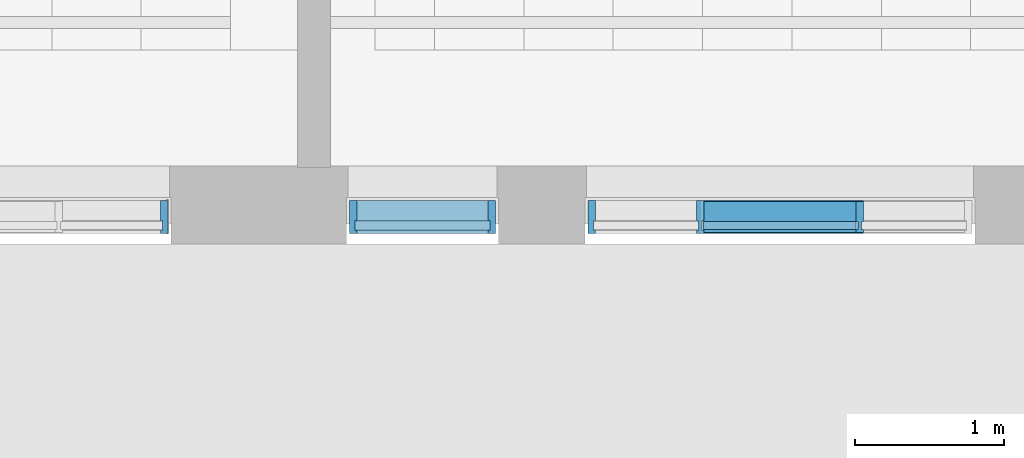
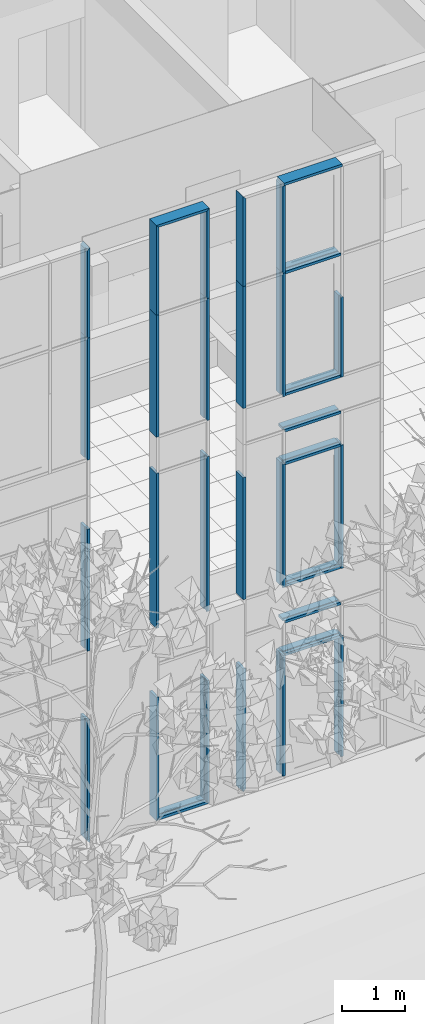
# One storey, part 22 of 246: 33 members, 3 elements without a shape of their own.
"""IFC2X3 building model written with IfcOpenShell, lengths in millimetres."""

from ifc_helpers import new_model, entity, si_unit, converted_unit, derived_unit, money_unit, direction, frame, origin_with_axes, place, context, subcontext, project, spatial, faceted_brep, source, transform, mapped, material, type_object, element, aggregate, save


model = new_model("IFC2X3")

# Units and contexts
model_context = context("Model", 3, precision=0.01, world=origin_with_axes(), true_north=direction((0.0, 1.0)))
body_context = subcontext(model_context, "Body", "Model", "MODEL_VIEW")
ifc_project = project(units=[si_unit("LENGTHUNIT", "METRE", prefix="MILLI"), si_unit("AREAUNIT", "SQUARE_METRE"), si_unit("VOLUMEUNIT", "CUBIC_METRE"), converted_unit("PLANEANGLEUNIT", "DEGREE", entity("IfcPlaneAngleMeasure", 0.0174532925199), si_unit("PLANEANGLEUNIT", "RADIAN"), dimensions=[0, 0, 0, 0, 0, 0, 0]), si_unit("SOLIDANGLEUNIT", "STERADIAN"), money_unit("EUR"), converted_unit("TIMEUNIT", "Year", entity("IfcTimeMeasure", 31556926.0), si_unit("TIMEUNIT", "SECOND"), dimensions=[0, 0, 1, 0, 0, 0, 0]), si_unit("MASSUNIT", "GRAM", prefix="KILO"), si_unit("THERMODYNAMICTEMPERATUREUNIT", "DEGREE_CELSIUS"), si_unit("LUMINOUSINTENSITYUNIT", "LUMEN"), si_unit("ENERGYUNIT", "JOULE", prefix="MEGA"), derived_unit("THERMALCONDUCTANCEUNIT", [(si_unit("POWERUNIT", "WATT"), 1), (si_unit("LENGTHUNIT", "METRE"), -1), (si_unit("THERMODYNAMICTEMPERATUREUNIT", "KELVIN"), -1)]), derived_unit("SPECIFICHEATCAPACITYUNIT", [(si_unit("ENERGYUNIT", "JOULE"), 1), (si_unit("MASSUNIT", "GRAM", prefix="KILO"), -1), (si_unit("THERMODYNAMICTEMPERATUREUNIT", "KELVIN"), -1)]), derived_unit("MASSDENSITYUNIT", [(si_unit("MASSUNIT", "GRAM", prefix="KILO"), 1), (si_unit("VOLUMEUNIT", "CUBIC_METRE"), -1)])], contexts=[model_context])

# Site, building, storey
site_placement = place(None, origin_with_axes())
site = spatial("IfcSite", under=ifc_project, at=site_placement, Name="L.Koidula tn 11b", CompositionType="ELEMENT")
building_placement = place(site_placement, origin_with_axes())
building = spatial("IfcBuilding", under=site, at=building_placement, Name="Rakvere Riigigümnaasium", CompositionType="ELEMENT")
storey_placement = place(building_placement, origin_with_axes())
storey = spatial("IfcBuildingStorey", under=building, at=storey_placement, Name="1.korrus 0,00", CompositionType="ELEMENT", Elevation=0.0)

# Curtain wall, member
curtain_wall_type = type_object("IfcCurtainWallType", Name="Curtain Wall Type", PredefinedType="NOTDEFINED")
curtain_wall_1_placement = place(storey_placement, frame((61650.0002269, 5111.45334637, -8.09717995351e-06), z_axis=(0.0, 0.0, 1.0), x_axis=(1.0, 0.0, 0.0)))
curtain_wall_1 = element("IfcCurtainWall", 1, at=curtain_wall_1_placement, inside=storey, type_object=curtain_wall_type, Name="KLF-05-4B")
ifc_material = material(Name="Alumiiniumprofiil (RAL 7021)")
member_type_1 = type_object("IfcMemberType", Name="Boundary Frame 50 x 222", PredefinedType="MULLION")
shared_shape_1 = source(origin_with_axes(), body_context, "Body", "Brep", [
    faceted_brep([(37.0, -32.5, 2375.00000025), (37.0, 32.5, 2375.00000025), (50.0, 32.5, 2375.00000025), (50.0, 53.0, 2375.00000025), (0.0, 53.0, 2375.00000025), (0.0, -169.0, 2375.00000025), (50.0, -169.0, 2375.00000025), (50.0, -32.5, 2375.00000025), (37.0, -32.5, -2.4712543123e-07), (37.0, 32.5, -2.4712543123e-07), (50.0, 32.5, -2.47125653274e-07), (50.0, 53.0, -2.47125653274e-07), (0.0, 53.0, -2.47125653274e-07), (0.0, -169.0, -2.47125653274e-07), (50.0, -169.0, -2.47125653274e-07), (50.0, -32.5, -2.47125653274e-07)], [[[0, 1, 2, 3, 4, 5, 6, 7]], [[1, 0, 8, 9]], [[10, 2, 1, 9]], [[2, 10, 11, 3]], [[12, 4, 3, 11]], [[13, 5, 4, 12]], [[14, 6, 5, 13]], [[15, 7, 6, 14]], [[0, 7, 15, 8]], [[8, 15, 14, 13, 12, 11, 10, 9]]]),
])
member_1_placement = place(curtain_wall_1_placement, frame((490.000170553, 0.0, 7465.0), z_axis=(-3.60066379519e-08, 0.0, 1.0), x_axis=(-1.0, 0.0, -3.60066379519e-08)))
member_1 = element("IfcMember", 2, at=member_1_placement, type_object=member_type_1, material=ifc_material, Name="KLF-11", ObjectType="MULLION", context=body_context, shape_type="MappedRepresentation", body=[
    mapped(shared_shape_1, transform((0.0, 0.0, 0.0))),
])

# Curtain wall, members
curtain_wall_2_placement = place(storey_placement, frame((59064.0000846, 5111.45334637, -8.09717250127e-06), z_axis=(0.0, 0.0, 1.0), x_axis=(1.0, 0.0, 0.0)))
curtain_wall_2 = element("IfcCurtainWall", 3, at=curtain_wall_2_placement, inside=storey, type_object=curtain_wall_type, Name="KLF-05-2A")
member_2_placement = place(curtain_wall_2_placement, frame((876.000206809, 0.0, 7465.0), z_axis=(-1.46874329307e-08, 0.0, 1.0), x_axis=(-1.0, 0.0, -1.46874329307e-08)))
member_2 = element("IfcMember", 4, at=member_2_placement, type_object=member_type_1, material=ifc_material, Name="KLF-05-8A-Profiilid", ObjectType="MULLION", context=body_context, shape_type="MappedRepresentation", body=[
    mapped(shared_shape_1, transform((0.0, 0.0, 0.0))),
])
member_3_placement = place(curtain_wall_2_placement, frame((876.000206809, 0.0, 3745.0), z_axis=(0.0, 0.0, 1.0), x_axis=(-1.0, 0.0, 0.0)))
member_3 = element("IfcMember", 5, at=member_3_placement, type_object=member_type_1, material=ifc_material, Name="KLF-05-5A-Profiilid", ObjectType="MULLION", context=body_context, shape_type="MappedRepresentation", body=[
    mapped(shared_shape_1, transform((0.0, 0.0, 0.0))),
])

curtain_wall_3_placement = place(storey_placement, frame((63946.9084811, 5111.45334637, -8.0971711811e-06), z_axis=(0.0, 0.0, 1.0), x_axis=(1.0, 0.0, 0.0)))
curtain_wall_3 = element("IfcCurtainWall", 6, at=curtain_wall_3_placement, inside=storey, type_object=curtain_wall_type, Name="KLF-05-3B")
member_4_placement = place(curtain_wall_3_placement, frame((-1186.90871197, 0.0, 6120.0), z_axis=(0.0, 0.0, -1.0), x_axis=(1.0, 0.0, 0.0)))
member_4 = element("IfcMember", 7, at=member_4_placement, type_object=member_type_1, material=ifc_material, Name="KLF-05-8A-Profiilid", ObjectType="MULLION", context=body_context, shape_type="MappedRepresentation", body=[
    mapped(shared_shape_1, transform((0.0, 0.0, 0.0))),
])
member_5_placement = place(curtain_wall_3_placement, frame((-1186.90888468, 0.0, 9840.0), z_axis=(0.0, 0.0, -1.0), x_axis=(1.0, 0.0, 0.0)))
member_5 = element("IfcMember", 8, at=member_5_placement, type_object=member_type_1, material=ifc_material, Name="KLF-05-5A-Profiilid", ObjectType="MULLION", context=body_context, shape_type="MappedRepresentation", body=[
    mapped(shared_shape_1, transform((0.0, 0.0, 0.0))),
])

# Member
shared_shape_2 = source(origin_with_axes(), body_context, "Body", "Brep", [
    faceted_brep([(-37.0, -32.5, 2375.0), (-50.0, -32.5, 2375.0), (-50.0, -169.0, 2375.0), (0.0, -169.0, 2375.0), (0.0, 53.0, 2375.0), (-50.0, 53.0, 2375.0), (-50.0, 32.5, 2375.0), (-37.0, 32.5, 2375.0), (-37.0, -32.5, 0.0), (-50.0, -32.5, 0.0), (-50.0, -169.0, 0.0), (0.0, -169.0, 0.0), (0.0, 53.0, 0.0), (-50.0, 53.0, 0.0), (-50.0, 32.5, 0.0), (-37.0, 32.5, 0.0)], [[[0, 1, 2, 3, 4, 5, 6, 7]], [[0, 8, 9, 1]], [[9, 10, 2, 1]], [[10, 11, 3, 2]], [[11, 12, 4, 3]], [[12, 13, 5, 4]], [[6, 5, 13, 14]], [[14, 15, 7, 6]], [[7, 15, 8, 0]], [[8, 15, 14, 13, 12, 11, 10, 9]]]),
])
member_6_placement = place(curtain_wall_1_placement, frame((-490.000127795, 0.0, 7465.0), z_axis=(0.0, 0.0, 1.0), x_axis=(-1.0, 0.0, 0.0)))
member_6 = element("IfcMember", 9, at=member_6_placement, type_object=member_type_1, material=ifc_material, Name="KLF-15", ObjectType="MULLION", context=body_context, shape_type="MappedRepresentation", body=[
    mapped(shared_shape_2, transform((0.0, 0.0, 0.0))),
])

shared_shape_3 = source(origin_with_axes(), body_context, "Body", "Brep", [
    faceted_brep([(37.0, -32.5, 1712.99983191), (37.0, 32.5, 1712.99983191), (50.0, 32.5, 1699.99983191), (50.0, 53.0, 1699.99983191), (0.0, 53.0, 1749.99983191), (0.0, -169.0, 1749.99983191), (50.0, -169.0, 1699.99983191), (50.0, -32.5, 1699.99983191), (37.0, -32.5, -2.47125875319e-07), (37.0, 32.5, -2.47125875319e-07), (50.0, 32.5, -2.47125764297e-07), (50.0, 53.0, -2.47125764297e-07), (0.0, 53.0, -2.47125764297e-07), (0.0, -169.0, -2.47125764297e-07), (50.0, -169.0, -2.47125764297e-07), (50.0, -32.5, -2.47125764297e-07)], [[[0, 1, 2, 3, 4, 5, 6, 7]], [[1, 0, 8, 9]], [[10, 2, 1, 9]], [[2, 10, 11, 3]], [[12, 4, 3, 11]], [[13, 5, 4, 12]], [[14, 6, 5, 13]], [[15, 7, 6, 14]], [[0, 7, 15, 8]], [[8, 15, 14, 13, 12, 11, 10, 9]]]),
])
member_7_placement = place(curtain_wall_1_placement, frame((490.000085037, 0.0, 9840.0), z_axis=(3.63216120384e-08, 0.0, 1.0), x_axis=(-1.0, 0.0, 3.63216120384e-08)))
member_7 = element("IfcMember", 10, at=member_7_placement, type_object=member_type_1, material=ifc_material, Name="KLF-12", ObjectType="MULLION", context=body_context, shape_type="MappedRepresentation", body=[
    mapped(shared_shape_3, transform((0.0, 0.0, 0.0))),
])

member_8_placement = place(curtain_wall_2_placement, frame((876.000171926, 0.0, 9840.0), z_axis=(5.61334026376e-08, 0.0, 1.0), x_axis=(-1.0, 0.0, 5.61334026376e-08)))
member_8 = element("IfcMember", 11, at=member_8_placement, type_object=member_type_1, material=ifc_material, Name="KLF-05-9A-Profiilid", ObjectType="MULLION", context=body_context, shape_type="MappedRepresentation", body=[
    mapped(shared_shape_3, transform((0.0, 0.0, 0.0))),
])

member_type_2 = type_object("IfcMemberType", Name="Mullion Frame 50 x 222", PredefinedType="MULLION")
shared_shape_4 = source(origin_with_axes(), body_context, "Body", "Brep", [
    faceted_brep([(-12.0, -32.5, 2375.0), (-25.0, -32.5, 2375.0), (-25.0, -169.0, 2375.0), (25.0, -169.0, 2375.0), (25.0, -32.5, 2375.0), (12.0, -32.5, 2375.0), (12.0, 32.5, 2375.0), (25.0, 32.5, 2375.0), (25.0, 53.0, 2375.0), (-25.0, 53.0, 2375.0), (-25.0, 32.5, 2375.0), (-12.0, 32.5, 2375.0), (-12.0, -32.5, -25.0), (-25.0, -32.5, -25.0), (-25.0, -169.0, -25.0), (25.0, -169.0, -25.0), (25.0, -32.5, -25.0), (12.0, -32.5, -25.0), (12.0, 32.5, -25.0), (25.0, 32.5, -25.0), (25.0, 53.0, -25.0), (-25.0, 53.0, -25.0), (-25.0, 32.5, -25.0), (-12.0, 32.5, -25.0)], [[[0, 1, 2, 3, 4, 5, 6, 7, 8, 9, 10, 11]], [[1, 0, 12, 13]], [[1, 13, 14, 2]], [[3, 2, 14, 15]], [[4, 3, 15, 16]], [[4, 16, 17, 5]], [[5, 17, 18, 6]], [[7, 6, 18, 19]], [[19, 20, 8, 7]], [[9, 8, 20, 21]], [[22, 10, 9, 21]], [[11, 10, 22, 23]], [[0, 11, 23, 12]], [[23, 22, 21, 20, 19, 18, 17, 16, 15, 14, 13, 12]]]),
])
member_9_placement = place(curtain_wall_3_placement, frame((-431.908628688, 0.0, 3745.0), z_axis=(0.0, 0.0, 1.0), x_axis=(-1.0, 0.0, 0.0)))
member_9 = element("IfcMember", 12, at=member_9_placement, type_object=member_type_2, material=ifc_material, Name="KLF-05-9A-Profiilid", ObjectType="MULLION", context=body_context, shape_type="MappedRepresentation", body=[
    mapped(shared_shape_4, transform((0.0, 0.0, 0.0))),
])

member_10_placement = place(curtain_wall_3_placement, frame((-431.908628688, 0.0, 7465.0), z_axis=(0.0, 0.0, 1.0), x_axis=(-1.0, 0.0, 0.0)))
member_10 = element("IfcMember", 13, at=member_10_placement, type_object=member_type_2, material=ifc_material, Name="KLF-05-6A-Profiilid", ObjectType="MULLION", context=body_context, shape_type="MappedRepresentation", body=[
    mapped(shared_shape_4, transform((0.0, 0.0, 0.0))),
])

shared_shape_5 = source(origin_with_axes(), body_context, "Body", "Brep", [
    faceted_brep([(37.0, -32.5, 2400.0), (37.0, 32.5, 2400.0), (50.0, 32.5, 2400.0), (50.0, 53.0, 2400.0), (0.0, 53.0, 2400.0), (0.0, -169.0, 2400.0), (50.0, -169.0, 2400.0), (50.0, -32.5, 2400.0), (37.0, -32.5, 37.0), (37.0, 32.5, 37.0), (50.0, 32.5, 50.0), (50.0, 53.0, 50.0), (0.0, 53.0, 0.0), (0.0, -169.0, 0.0), (50.0, -169.0, 50.0), (50.0, -32.5, 50.0)], [[[0, 1, 2, 3, 4, 5, 6, 7]], [[1, 0, 8, 9]], [[10, 2, 1, 9]], [[2, 10, 11, 3]], [[4, 3, 11, 12]], [[5, 4, 12, 13]], [[6, 5, 13, 14]], [[15, 7, 6, 14]], [[0, 7, 15, 8]], [[8, 15, 14, 13, 12, 11, 10, 9]]]),
])
member_11_placement = place(curtain_wall_1_placement, frame((490.000170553, 0.0, 0.0), z_axis=(0.0, 0.0, 1.0), x_axis=(-1.0, 0.0, 0.0)))
member_11 = element("IfcMember", 14, at=member_11_placement, type_object=member_type_1, material=ifc_material, Name="KLF-06", ObjectType="MULLION", context=body_context, shape_type="MappedRepresentation", body=[
    mapped(shared_shape_5, transform((0.0, 0.0, 0.0))),
])

member_12_placement = place(curtain_wall_2_placement, frame((876.000206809, 0.0, 0.0), z_axis=(0.0, 0.0, 1.0), x_axis=(-1.0, 0.0, 0.0)))
member_12 = element("IfcMember", 15, at=member_12_placement, type_object=member_type_1, material=ifc_material, Name="KLF-05-2A-Profiilid", ObjectType="MULLION", context=body_context, shape_type="MappedRepresentation", body=[
    mapped(shared_shape_5, transform((0.0, 0.0, 0.0))),
])

aggregate(curtain_wall_2, [member_2, member_3, member_12, member_8])

member_type_3 = type_object("IfcMemberType", Name="50 x 208", PredefinedType="MULLION")
shared_shape_6 = source(origin_with_axes(), body_context, "Body", "Brep", [
    faceted_brep([(-12.0, -27.0, 1025.45673266), (-25.0, -27.0, 1025.45673266), (-25.0, -160.0, 1025.45673266), (25.0, -160.0, 1025.45673266), (25.0, -27.0, 1025.45673266), (12.0, -27.0, 1025.45673266), (12.0, 27.0, 1025.45673266), (25.0, 27.0, 1025.45673266), (25.0, 48.0, 1025.45673266), (-25.0, 48.0, 1025.45673266), (-25.0, 27.0, 1025.45673266), (-12.0, 27.0, 1025.45673266), (-12.0, -27.0, 0.0), (-25.0, -27.0, 0.0), (-25.0, -160.0, 0.0), (25.0, -160.0, 0.0), (25.0, -27.0, 0.0), (12.0, -27.0, 0.0), (12.0, 27.0, 0.0), (25.0, 27.0, 0.0), (25.0, 48.0, 0.0), (-25.0, 48.0, 0.0), (-25.0, 27.0, 0.0), (-12.0, 27.0, 0.0)], [[[0, 1, 2, 3, 4, 5, 6, 7, 8, 9, 10, 11]], [[1, 0, 12, 13]], [[1, 13, 14, 2]], [[3, 2, 14, 15]], [[4, 3, 15, 16]], [[4, 16, 17, 5]], [[5, 17, 18, 6]], [[7, 6, 18, 19]], [[19, 20, 8, 7]], [[9, 8, 20, 21]], [[22, 10, 9, 21]], [[11, 10, 22, 23]], [[0, 11, 23, 12]], [[23, 22, 21, 20, 19, 18, 17, 16, 15, 14, 13, 12]]]),
])
member_13_placement = place(curtain_wall_3_placement, frame((-412.365361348, 0.0, 2400.0), z_axis=(1.0, 0.0, 0.0), x_axis=(0.0, 0.0, 1.0)))
member_13 = element("IfcMember", 16, at=member_13_placement, type_object=member_type_3, material=ifc_material, Name="KLF-40", ObjectType="MULLION", context=body_context, shape_type="MappedRepresentation", body=[
    mapped(shared_shape_6, transform((0.0, 0.0, 0.0))),
])

member_14_placement = place(curtain_wall_3_placement, frame((-412.365361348, 0.0, 3040.0), z_axis=(1.0, 0.0, 0.0), x_axis=(0.0, 0.0, 1.0)))
member_14 = element("IfcMember", 17, at=member_14_placement, type_object=member_type_3, material=ifc_material, Name="KLF-82", ObjectType="MULLION", context=body_context, shape_type="MappedRepresentation", body=[
    mapped(shared_shape_6, transform((0.0, 0.0, 0.0))),
])

member_15_placement = place(curtain_wall_3_placement, frame((-412.365361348, 0.0, 3745.0), z_axis=(1.0, 0.0, 0.0), x_axis=(0.0, 0.0, 1.0)))
member_15 = element("IfcMember", 18, at=member_15_placement, type_object=member_type_3, material=ifc_material, Name="KLF-84", ObjectType="MULLION", context=body_context, shape_type="MappedRepresentation", body=[
    mapped(shared_shape_6, transform((0.0, 0.0, 0.0))),
])

member_16_placement = place(curtain_wall_3_placement, frame((-412.365361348, 0.0, 6120.0), z_axis=(1.0, 0.0, 0.0), x_axis=(0.0, 0.0, 1.0)))
member_16 = element("IfcMember", 19, at=member_16_placement, type_object=member_type_3, material=ifc_material, Name="KLF-15", ObjectType="MULLION", context=body_context, shape_type="MappedRepresentation", body=[
    mapped(shared_shape_6, transform((0.0, 0.0, 0.0))),
])

member_17_placement = place(curtain_wall_3_placement, frame((-412.365361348, 0.0, 6760.0), z_axis=(1.0, 0.0, 0.0), x_axis=(0.0, 0.0, 1.0)))
member_17 = element("IfcMember", 20, at=member_17_placement, type_object=member_type_3, material=ifc_material, Name="KLF-17", ObjectType="MULLION", context=body_context, shape_type="MappedRepresentation", body=[
    mapped(shared_shape_6, transform((0.0, 0.0, 0.0))),
])

member_18_placement = place(curtain_wall_3_placement, frame((-412.365361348, 0.0, 7465.0), z_axis=(1.0, 0.0, 0.0), x_axis=(0.0, 0.0, 1.0)))
member_18 = element("IfcMember", 21, at=member_18_placement, type_object=member_type_3, material=ifc_material, Name="KLF-50", ObjectType="MULLION", context=body_context, shape_type="MappedRepresentation", body=[
    mapped(shared_shape_6, transform((0.0, 0.0, 0.0))),
])

shared_shape_7 = source(origin_with_axes(), body_context, "Body", "Brep", [
    faceted_brep([(-12.0, -32.5, 1699.99983191), (-25.0, -32.5, 1699.99983191), (-25.0, -169.0, 1699.99983191), (25.0, -169.0, 1699.99983191), (25.0, -32.5, 1699.99983191), (12.0, -32.5, 1699.99983191), (12.0, 32.5, 1699.99983191), (25.0, 32.5, 1699.99983191), (25.0, 53.0, 1699.99983191), (-25.0, 53.0, 1699.99983191), (-25.0, 32.5, 1699.99983191), (-12.0, 32.5, 1699.99983191), (-12.0, -32.5, 0.0), (-25.0, -32.5, 0.0), (-25.0, -169.0, 0.0), (25.0, -169.0, 0.0), (25.0, -32.5, 0.0), (12.0, -32.5, 0.0), (12.0, 32.5, 0.0), (25.0, 32.5, 0.0), (25.0, 53.0, 0.0), (-25.0, 53.0, 0.0), (-25.0, 32.5, 0.0), (-12.0, 32.5, 0.0)], [[[0, 1, 2, 3, 4, 5, 6, 7, 8, 9, 10, 11]], [[1, 0, 12, 13]], [[1, 13, 14, 2]], [[3, 2, 14, 15]], [[4, 3, 15, 16]], [[4, 16, 17, 5]], [[5, 17, 18, 6]], [[7, 6, 18, 19]], [[19, 20, 8, 7]], [[9, 8, 20, 21]], [[22, 10, 9, 21]], [[11, 10, 22, 23]], [[0, 11, 23, 12]], [[23, 22, 21, 20, 19, 18, 17, 16, 15, 14, 13, 12]]]),
])
member_19_placement = place(curtain_wall_3_placement, frame((-431.908628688, 0.0, 9840.0), z_axis=(0.0, 0.0, 1.0), x_axis=(-1.0, 0.0, 0.0)))
member_19 = element("IfcMember", 22, at=member_19_placement, type_object=member_type_2, material=ifc_material, Name="KLF-05-5A-Profiilid", ObjectType="MULLION", context=body_context, shape_type="MappedRepresentation", body=[
    mapped(shared_shape_7, transform((0.0, 0.0, 0.0))),
])

shared_shape_8 = source(origin_with_axes(), body_context, "Body", "Brep", [
    faceted_brep([(-37.0, -32.5, 2400.0), (-50.0, -32.5, 2400.0), (-50.0, -169.0, 2400.0), (0.0, -169.0, 2400.0), (0.0, 53.0, 2400.0), (-50.0, 53.0, 2400.0), (-50.0, 32.5, 2400.0), (-37.0, 32.5, 2400.0), (-37.0, -32.5, 37.0), (-50.0, -32.5, 50.0), (-50.0, -169.0, 50.0), (0.0, -169.0, 0.0), (0.0, 53.0, 0.0), (-50.0, 53.0, 50.0), (-50.0, 32.5, 50.0), (-37.0, 32.5, 37.0)], [[[0, 1, 2, 3, 4, 5, 6, 7]], [[0, 8, 9, 1]], [[9, 10, 2, 1]], [[2, 10, 11, 3]], [[3, 11, 12, 4]], [[4, 12, 13, 5]], [[6, 5, 13, 14]], [[14, 15, 7, 6]], [[7, 15, 8, 0]], [[8, 15, 14, 13, 12, 11, 10, 9]]]),
])
member_20_placement = place(curtain_wall_1_placement, frame((-490.000127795, 0.0, 0.0), z_axis=(0.0, 0.0, 1.0), x_axis=(-1.0, 0.0, 0.0)))
member_20 = element("IfcMember", 23, at=member_20_placement, type_object=member_type_1, material=ifc_material, Name="KLF-20", ObjectType="MULLION", context=body_context, shape_type="MappedRepresentation", body=[
    mapped(shared_shape_8, transform((0.0, 0.0, 0.0))),
])

shared_shape_9 = source(origin_with_axes(), body_context, "Body", "Brep", [
    faceted_brep([(-37.0, -32.5, 1712.99983191), (-50.0, -32.5, 1699.99983191), (-50.0, -169.0, 1699.99983191), (0.0, -169.0, 1749.99983191), (0.0, 53.0, 1749.99983191), (-50.0, 53.0, 1699.99983191), (-50.0, 32.5, 1699.99983191), (-37.0, 32.5, 1712.99983191), (-37.0, -32.5, 0.0), (-50.0, -32.5, 0.0), (-50.0, -169.0, 0.0), (0.0, -169.0, 0.0), (0.0, 53.0, 0.0), (-50.0, 53.0, 0.0), (-50.0, 32.5, 0.0), (-37.0, 32.5, 0.0)], [[[0, 1, 2, 3, 4, 5, 6, 7]], [[0, 8, 9, 1]], [[9, 10, 2, 1]], [[10, 11, 3, 2]], [[11, 12, 4, 3]], [[12, 13, 5, 4]], [[6, 5, 13, 14]], [[14, 15, 7, 6]], [[7, 15, 8, 0]], [[8, 15, 14, 13, 12, 11, 10, 9]]]),
])
member_21_placement = place(curtain_wall_1_placement, frame((-490.000127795, 0.0, 9840.0), z_axis=(0.0, 0.0, 1.0), x_axis=(-1.0, 0.0, 0.0)))
member_21 = element("IfcMember", 24, at=member_21_placement, type_object=member_type_1, material=ifc_material, Name="KLF-14", ObjectType="MULLION", context=body_context, shape_type="MappedRepresentation", body=[
    mapped(shared_shape_9, transform((0.0, 0.0, 0.0))),
])

shared_shape_10 = source(origin_with_axes(), body_context, "Body", "Brep", [
    faceted_brep([(37.0, -32.5, 3015.0), (37.0, 32.5, 3015.0), (50.0, 32.5, 3015.0), (50.0, 53.0, 3015.0), (0.0, 53.0, 3015.0), (0.0, -169.0, 3015.0), (50.0, -169.0, 3015.0), (50.0, -32.5, 3015.0), (37.0, -32.5, 0.0), (37.0, 32.5, 0.0), (50.0, 32.5, 0.0), (50.0, 53.0, 0.0), (0.0, 53.0, 0.0), (0.0, -169.0, 0.0), (50.0, -169.0, 0.0), (50.0, -32.5, 0.0)], [[[0, 1, 2, 3, 4, 5, 6, 7]], [[1, 0, 8, 9]], [[10, 2, 1, 9]], [[2, 10, 11, 3]], [[12, 4, 3, 11]], [[13, 5, 4, 12]], [[14, 6, 5, 13]], [[15, 7, 6, 14]], [[0, 7, 15, 8]], [[8, 15, 14, 13, 12, 11, 10, 9]]]),
])
member_22_placement = place(curtain_wall_1_placement, frame((490.000170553, 0.0, 3745.0), z_axis=(0.0, 0.0, 1.0), x_axis=(-1.0, 0.0, 0.0)))
member_22 = element("IfcMember", 25, at=member_22_placement, type_object=member_type_1, material=ifc_material, Name="KLF-09", ObjectType="MULLION", context=body_context, shape_type="MappedRepresentation", body=[
    mapped(shared_shape_10, transform((0.0, 0.0, 0.0))),
])

shared_shape_11 = source(origin_with_axes(), body_context, "Body", "Brep", [
    faceted_brep([(-12.0, -27.0, 2400.00026018), (-25.0, -27.0, 2400.00026018), (-25.0, -160.0, 2400.00026018), (25.0, -160.0, 2400.00026018), (25.0, -27.0, 2400.00026018), (12.0, -27.0, 2400.00026018), (12.0, 27.0, 2400.00026018), (25.0, 27.0, 2400.00026018), (25.0, 48.0, 2400.00026018), (-25.0, 48.0, 2400.00026018), (-25.0, 27.0, 2400.00026018), (-12.0, 27.0, 2400.00026018), (-12.0, -27.0, 50.0), (-25.0, -27.0, 50.0), (-25.0, -160.0, 50.0), (25.0, -160.0, 50.0), (25.0, -27.0, 50.0), (12.0, -27.0, 50.0), (12.0, 27.0, 50.0), (25.0, 27.0, 50.0), (25.0, 48.0, 50.0), (-25.0, 48.0, 50.0), (-25.0, 27.0, 50.0), (-12.0, 27.0, 50.0)], [[[0, 1, 2, 3, 4, 5, 6, 7, 8, 9, 10, 11]], [[1, 0, 12, 13]], [[1, 13, 14, 2]], [[2, 14, 15, 3]], [[4, 3, 15, 16]], [[4, 16, 17, 5]], [[5, 17, 18, 6]], [[7, 6, 18, 19]], [[19, 20, 8, 7]], [[8, 20, 21, 9]], [[22, 10, 9, 21]], [[11, 10, 22, 23]], [[0, 11, 23, 12]], [[23, 22, 21, 20, 19, 18, 17, 16, 15, 14, 13, 12]]]),
])
member_23_placement = place(curtain_wall_3_placement, frame((638.091371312, 0.0, 0.0), z_axis=(0.0, 0.0, 1.0), x_axis=(-1.0, 0.0, 0.0)))
member_23 = element("IfcMember", 26, at=member_23_placement, type_object=member_type_3, material=ifc_material, Name="KLF-24", ObjectType="MULLION", context=body_context, shape_type="MappedRepresentation", body=[
    mapped(shared_shape_11, transform((0.0, 0.0, 0.0))),
])

shared_shape_12 = source(origin_with_axes(), body_context, "Body", "Brep", [
    faceted_brep([(-12.0, -32.5, 2400.0), (-25.0, -32.5, 2400.0), (-25.0, -169.0, 2400.0), (25.0, -169.0, 2400.0), (25.0, -32.5, 2400.0), (12.0, -32.5, 2400.0), (12.0, 32.5, 2400.0), (25.0, 32.5, 2400.0), (25.0, 53.0, 2400.0), (-25.0, 53.0, 2400.0), (-25.0, 32.5, 2400.0), (-12.0, 32.5, 2400.0), (-12.0, -32.5, 50.0), (-25.0, -32.5, 50.0), (-25.0, -169.0, 50.0), (25.0, -169.0, 50.0), (25.0, -32.5, 50.0), (12.0, -32.5, 50.0), (12.0, 32.5, 50.0), (25.0, 32.5, 50.0), (25.0, 53.0, 50.0), (-25.0, 53.0, 50.0), (-25.0, 32.5, 50.0), (-12.0, 32.5, 50.0)], [[[0, 1, 2, 3, 4, 5, 6, 7, 8, 9, 10, 11]], [[1, 0, 12, 13]], [[1, 13, 14, 2]], [[2, 14, 15, 3]], [[4, 3, 15, 16]], [[4, 16, 17, 5]], [[5, 17, 18, 6]], [[7, 6, 18, 19]], [[19, 20, 8, 7]], [[8, 20, 21, 9]], [[22, 10, 9, 21]], [[11, 10, 22, 23]], [[0, 11, 23, 12]], [[23, 22, 21, 20, 19, 18, 17, 16, 15, 14, 13, 12]]]),
])
member_24_placement = place(curtain_wall_3_placement, frame((-431.908628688, 0.0, 0.0), z_axis=(0.0, 0.0, 1.0), x_axis=(-1.0, 0.0, 0.0)))
member_24 = element("IfcMember", 27, at=member_24_placement, type_object=member_type_2, material=ifc_material, Name="KLF-05-2A-Profiilid", ObjectType="MULLION", context=body_context, shape_type="MappedRepresentation", body=[
    mapped(shared_shape_12, transform((0.0, 0.0, 0.0))),
])

shared_shape_13 = source(origin_with_axes(), body_context, "Body", "Brep", [
    faceted_brep([(-12.0, -27.0, 1535.0), (-25.0, -27.0, 1535.0), (-25.0, -160.0, 1535.0), (25.0, -160.0, 1535.0), (25.0, -27.0, 1535.0), (12.0, -27.0, 1535.0), (12.0, 27.0, 1535.0), (25.0, 27.0, 1535.0), (25.0, 48.0, 1535.0), (-25.0, 48.0, 1535.0), (-25.0, 27.0, 1535.0), (-12.0, 27.0, 1535.0), (-12.0, -27.0, -25.0), (-25.0, -27.0, -25.0), (-25.0, -160.0, -25.0), (25.0, -160.0, -25.0), (25.0, -27.0, -25.0), (12.0, -27.0, -25.0), (12.0, 27.0, -25.0), (25.0, 27.0, -25.0), (25.0, 48.0, -25.0), (-25.0, 48.0, -25.0), (-25.0, 27.0, -25.0), (-12.0, 27.0, -25.0)], [[[0, 1, 2, 3, 4, 5, 6, 7, 8, 9, 10, 11]], [[1, 0, 12, 13]], [[1, 13, 14, 2]], [[3, 2, 14, 15]], [[4, 3, 15, 16]], [[4, 16, 17, 5]], [[5, 17, 18, 6]], [[7, 6, 18, 19]], [[19, 20, 8, 7]], [[9, 8, 20, 21]], [[22, 10, 9, 21]], [[11, 10, 22, 23]], [[0, 11, 23, 12]], [[23, 22, 21, 20, 19, 18, 17, 16, 15, 14, 13, 12]]]),
])
member_25_placement = place(curtain_wall_3_placement, frame((638.091371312, 0.0, 7465.0), z_axis=(0.0, 0.0, 1.0), x_axis=(-1.0, 0.0, 0.0)))
member_25 = element("IfcMember", 28, at=member_25_placement, type_object=member_type_3, material=ifc_material, Name="KLF-25", ObjectType="MULLION", context=body_context, shape_type="MappedRepresentation", body=[
    mapped(shared_shape_13, transform((0.0, 0.0, 0.0))),
])

member_type_4 = type_object("IfcMemberType", Name="50 x 222", PredefinedType="MULLION")
shared_shape_14 = source(origin_with_axes(), body_context, "Body", "Brep", [
    faceted_brep([(-12.0, -27.0, 2375.0), (-25.0, -27.0, 2375.0), (-25.0, -169.0, 2375.0), (25.0, -169.0, 2375.0), (25.0, -27.0, 2375.0), (12.0, -27.0, 2375.0), (12.0, 27.0, 2375.0), (25.0, 27.0, 2375.0), (25.0, 53.0, 2375.0), (-25.0, 53.0, 2375.0), (-25.0, 27.0, 2375.0), (-12.0, 27.0, 2375.0), (-12.0, -27.0, -25.0), (-25.0, -27.0, -25.0), (-25.0, -169.0, -25.0), (25.0, -169.0, -25.0), (25.0, -27.0, -25.0), (12.0, -27.0, -25.0), (12.0, 27.0, -25.0), (25.0, 27.0, -25.0), (25.0, 53.0, -25.0), (-25.0, 53.0, -25.0), (-25.0, 27.0, -25.0), (-12.0, 27.0, -25.0)], [[[0, 1, 2, 3, 4, 5, 6, 7, 8, 9, 10, 11]], [[1, 0, 12, 13]], [[1, 13, 14, 2]], [[3, 2, 14, 15]], [[4, 3, 15, 16]], [[4, 16, 17, 5]], [[5, 17, 18, 6]], [[7, 6, 18, 19]], [[19, 20, 8, 7]], [[9, 8, 20, 21]], [[22, 10, 9, 21]], [[11, 10, 22, 23]], [[0, 11, 23, 12]], [[23, 22, 21, 20, 19, 18, 17, 16, 15, 14, 13, 12]]]),
])
member_26_placement = place(curtain_wall_3_placement, frame((638.091371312, 0.0, 3745.0), z_axis=(0.0, 0.0, 1.0), x_axis=(-1.0, 0.0, 0.0)))
member_26 = element("IfcMember", 29, at=member_26_placement, type_object=member_type_4, material=ifc_material, Name="KLF-67", ObjectType="MULLION", context=body_context, shape_type="MappedRepresentation", body=[
    mapped(shared_shape_14, transform((0.0, 0.0, 0.0))),
])

shared_shape_15 = source(origin_with_axes(), body_context, "Body", "Brep", [
    faceted_brep([(37.0, -32.5, 2363.0), (37.0, 32.5, 2363.0), (50.0, 32.5, 2350.0), (50.0, 53.0, 2350.0), (0.0, 53.0, 2400.0), (0.0, -169.0, 2400.0), (50.0, -169.0, 2350.0), (50.0, -32.5, 2350.0), (37.0, -32.5, 0.0), (37.0, 32.5, 0.0), (50.0, 32.5, 0.0), (50.0, 53.0, 0.0), (0.0, 53.0, 0.0), (0.0, -169.0, 0.0), (50.0, -169.0, 0.0), (50.0, -32.5, 0.0)], [[[0, 1, 2, 3, 4, 5, 6, 7]], [[1, 0, 8, 9]], [[10, 2, 1, 9]], [[2, 10, 11, 3]], [[12, 4, 3, 11]], [[13, 5, 4, 12]], [[14, 6, 5, 13]], [[15, 7, 6, 14]], [[0, 7, 15, 8]], [[8, 15, 14, 13, 12, 11, 10, 9]]]),
])
member_27_placement = place(curtain_wall_3_placement, frame((-1186.90871197, 0.0, 2400.0), z_axis=(0.0, 0.0, -1.0), x_axis=(1.0, 0.0, 0.0)))
member_27 = element("IfcMember", 30, at=member_27_placement, type_object=member_type_1, material=ifc_material, Name="KLF-05-9A-Profiilid", ObjectType="MULLION", context=body_context, shape_type="MappedRepresentation", body=[
    mapped(shared_shape_15, transform((0.0, 0.0, 0.0))),
])

shared_shape_16 = source(origin_with_axes(), body_context, "Body", "Brep", [
    faceted_brep([(37.0, -32.5, 1749.99983313), (37.0, 32.5, 1749.99983313), (50.0, 32.5, 1749.99983313), (50.0, 53.0, 1749.99983313), (0.0, 53.0, 1749.99983313), (0.0, -169.0, 1749.99983313), (50.0, -169.0, 1749.99983313), (50.0, -32.5, 1749.99983313), (37.0, -32.5, 37.0000017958), (37.0, 32.5, 37.0000017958), (50.0, 32.5, 50.0000024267), (50.0, 53.0, 50.0000024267), (0.0, 53.0, 0.0), (0.0, -169.0, 0.0), (50.0, -169.0, 50.0000024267), (50.0, -32.5, 50.0000024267)], [[[0, 1, 2, 3, 4, 5, 6, 7]], [[1, 0, 8, 9]], [[10, 2, 1, 9]], [[2, 10, 11, 3]], [[4, 3, 11, 12]], [[5, 4, 12, 13]], [[6, 5, 13, 14]], [[15, 7, 6, 14]], [[0, 7, 15, 8]], [[8, 15, 14, 13, 12, 11, 10, 9]]]),
])
member_28_placement = place(curtain_wall_3_placement, frame((-1186.90890227, 0.0, 11590.0000411), z_axis=(1.00537490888e-08, 0.0, -1.0), x_axis=(1.0, 0.0, 1.00537490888e-08)))
member_28 = element("IfcMember", 31, at=member_28_placement, type_object=member_type_1, material=ifc_material, Name="KLF-05-4A-Profiilid", ObjectType="MULLION", context=body_context, shape_type="MappedRepresentation", body=[
    mapped(shared_shape_16, transform((0.0, 0.0, 0.0))),
])

shared_shape_17 = source(origin_with_axes(), body_context, "Body", "Brep", [
    faceted_brep([(-37.0, -32.5, 3015.0), (-50.0, -32.5, 3015.0), (-50.0, -169.0, 3015.0), (0.0, -169.0, 3015.0), (0.0, 53.0, 3015.0), (-50.0, 53.0, 3015.0), (-50.0, 32.5, 3015.0), (-37.0, 32.5, 3015.0), (-37.0, -32.5, 0.0), (-50.0, -32.5, 0.0), (-50.0, -169.0, 0.0), (0.0, -169.0, 0.0), (0.0, 53.0, 0.0), (-50.0, 53.0, 0.0), (-50.0, 32.5, 0.0), (-37.0, 32.5, 0.0)], [[[0, 1, 2, 3, 4, 5, 6, 7]], [[0, 8, 9, 1]], [[9, 10, 2, 1]], [[10, 11, 3, 2]], [[11, 12, 4, 3]], [[12, 13, 5, 4]], [[6, 5, 13, 14]], [[14, 15, 7, 6]], [[7, 15, 8, 0]], [[8, 15, 14, 13, 12, 11, 10, 9]]]),
])
member_29_placement = place(curtain_wall_1_placement, frame((-490.000127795, 0.0, 3745.0), z_axis=(0.0, 0.0, 1.0), x_axis=(-1.0, 0.0, 0.0)))
member_29 = element("IfcMember", 32, at=member_29_placement, type_object=member_type_1, material=ifc_material, Name="KLF-17", ObjectType="MULLION", context=body_context, shape_type="MappedRepresentation", body=[
    mapped(shared_shape_17, transform((0.0, 0.0, 0.0))),
])

shared_shape_18 = source(origin_with_axes(), body_context, "Body", "Brep", [
    faceted_brep([(37.0, -32.5, 943.000298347), (37.0, 32.5, 943.000298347), (50.0, 32.5, 930.000298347), (50.0, 53.0, 930.000298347), (0.0, 53.0, 980.000298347), (0.0, -169.0, 980.000298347), (50.0, -169.0, 930.000298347), (50.0, -32.5, 930.000298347), (37.0, -32.5, 37.0), (37.0, 32.5, 37.0), (50.0, 32.5, 50.0), (50.0, 53.0, 50.0), (0.0, 53.0, 0.0), (0.0, -169.0, 0.0), (50.0, -169.0, 50.0), (50.0, -32.5, 50.0)], [[[0, 1, 2, 3, 4, 5, 6, 7]], [[1, 0, 8, 9]], [[10, 2, 1, 9]], [[2, 10, 11, 3]], [[4, 3, 11, 12]], [[5, 4, 12, 13]], [[6, 5, 13, 14]], [[15, 7, 6, 14]], [[0, 7, 15, 8]], [[8, 15, 14, 13, 12, 11, 10, 9]]]),
])
member_30_placement = place(curtain_wall_1_placement, frame((-490.000127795, 0.0, 0.0), z_axis=(1.0, 0.0, 0.0), x_axis=(0.0, 0.0, 1.0)))
member_30 = element("IfcMember", 33, at=member_30_placement, type_object=member_type_1, material=ifc_material, Name="KLF-05", ObjectType="MULLION", context=body_context, shape_type="MappedRepresentation", body=[
    mapped(shared_shape_18, transform((0.0, 0.0, 0.0))),
])

member_31_placement = place(curtain_wall_1_placement, frame((490.0001486, 0.0, 11590.0000411), z_axis=(-1.0, 0.0, 0.0), x_axis=(0.0, 0.0, -1.0)))
member_31 = element("IfcMember", 34, at=member_31_placement, type_object=member_type_1, material=ifc_material, Name="KLF-13", ObjectType="MULLION", context=body_context, shape_type="MappedRepresentation", body=[
    mapped(shared_shape_18, transform((0.0, 0.0, 0.0))),
])

aggregate(curtain_wall_1, [member_20, member_29, member_6, member_30, member_1, member_22, member_11, member_21, member_31, member_7])

member_type_5 = type_object("IfcMemberType", Name="Transom Frame 50 x 222", PredefinedType="MULLION")
shared_shape_19 = source(origin_with_axes(), body_context, "Body", "Brep", [
    faceted_brep([(-12.0, -32.5, 1045.0), (-25.0, -32.5, 1045.0), (-25.0, -169.0, 1045.0), (25.0, -169.0, 1045.0), (25.0, -32.5, 1045.0), (12.0, -32.5, 1045.0), (12.0, 32.5, 1045.0), (25.0, 32.5, 1045.0), (25.0, 53.0, 1045.0), (-25.0, 53.0, 1045.0), (-25.0, 32.5, 1045.0), (-12.0, 32.5, 1045.0), (-12.0, -32.5, 25.0), (-25.0, -32.5, 25.0), (-25.0, -169.0, 25.0), (25.0, -169.0, 25.0), (25.0, -32.5, 25.0), (12.0, -32.5, 25.0), (12.0, 32.5, 25.0), (25.0, 32.5, 25.0), (25.0, 53.0, 25.0), (-25.0, 53.0, 25.0), (-25.0, 32.5, 25.0), (-12.0, 32.5, 25.0)], [[[0, 1, 2, 3, 4, 5, 6, 7, 8, 9, 10, 11]], [[1, 0, 12, 13]], [[1, 13, 14, 2]], [[2, 14, 15, 3]], [[4, 3, 15, 16]], [[4, 16, 17, 5]], [[5, 17, 18, 6]], [[7, 6, 18, 19]], [[19, 20, 8, 7]], [[8, 20, 21, 9]], [[22, 10, 9, 21]], [[11, 10, 22, 23]], [[0, 11, 23, 12]], [[23, 22, 21, 20, 19, 18, 17, 16, 15, 14, 13, 12]]]),
])
member_32_placement = place(curtain_wall_3_placement, frame((-431.908628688, 0.0, 9840.0), z_axis=(1.0, 0.0, 0.0), x_axis=(0.0, 0.0, 1.0)))
member_32 = element("IfcMember", 35, at=member_32_placement, type_object=member_type_5, material=ifc_material, Name="KLF-05-6A-Profiilid", ObjectType="MULLION", context=body_context, shape_type="MappedRepresentation", body=[
    mapped(shared_shape_19, transform((0.0, 0.0, 0.0))),
])

shared_shape_20 = source(origin_with_axes(), body_context, "Body", "Brep", [
    faceted_brep([(37.0, -32.5, 1070.0), (37.0, 32.5, 1070.0), (50.0, 32.5, 1070.0), (50.0, 53.0, 1070.0), (0.0, 53.0, 1070.0), (0.0, -169.0, 1070.0), (50.0, -169.0, 1070.0), (50.0, -32.5, 1070.0), (37.0, -32.5, 0.0), (37.0, 32.5, 0.0), (50.0, 32.5, 0.0), (50.0, 53.0, 0.0), (0.0, 53.0, 0.0), (0.0, -169.0, 0.0), (50.0, -169.0, 0.0), (50.0, -32.5, 0.0)], [[[0, 1, 2, 3, 4, 5, 6, 7]], [[1, 0, 8, 9]], [[10, 2, 1, 9]], [[2, 10, 11, 3]], [[12, 4, 3, 11]], [[13, 5, 4, 12]], [[14, 6, 5, 13]], [[15, 7, 6, 14]], [[0, 7, 15, 8]], [[8, 15, 14, 13, 12, 11, 10, 9]]]),
])
member_33_placement = place(curtain_wall_3_placement, frame((638.091371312, 0.0, 11590.0000411), z_axis=(-1.0, 0.0, 0.0), x_axis=(0.0, 0.0, -1.0)))
member_33 = element("IfcMember", 36, at=member_33_placement, type_object=member_type_1, material=ifc_material, Name="KLF-05-2A-Profiilid", ObjectType="MULLION", context=body_context, shape_type="MappedRepresentation", body=[
    mapped(shared_shape_20, transform((0.0, 0.0, 0.0))),
])

aggregate(curtain_wall_3, [member_13, member_25, member_23, member_14, member_15, member_26, member_16, member_17, member_18, member_32, member_24, member_9, member_10, member_4, member_5, member_27, member_28, member_19, member_33])

save(model, "model.ifc")
